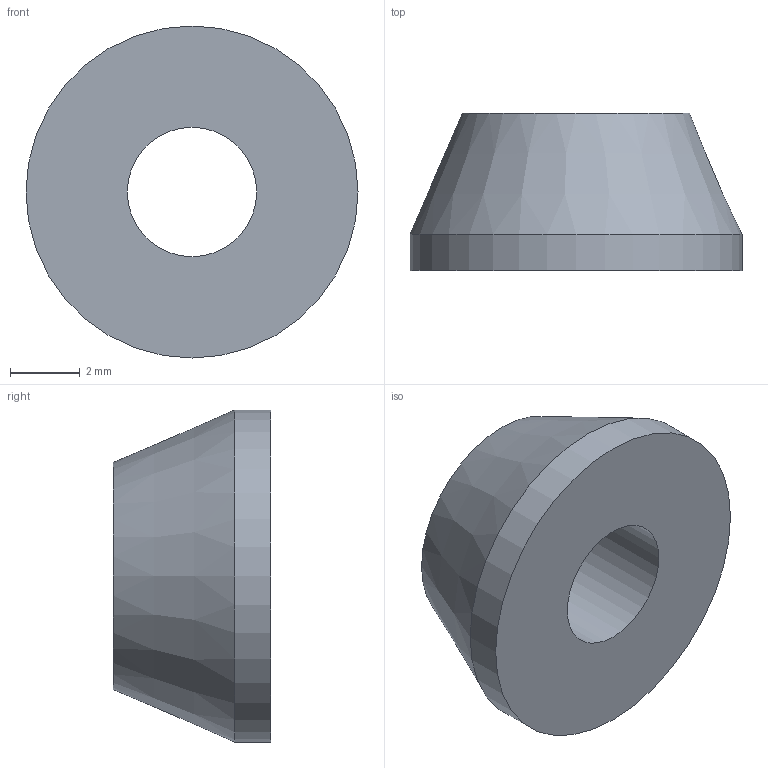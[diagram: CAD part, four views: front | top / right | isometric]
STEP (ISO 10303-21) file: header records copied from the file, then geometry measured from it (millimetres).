
FILE_DESCRIPTION(/* description */ (''),/* implementation_level */ '2;1');
FILE_NAME(/* name */ 'C:/Users/Ulises/Desktop/T1/mecanica_cad/espaciador_polea_lisa.step',/* time_stamp */ '2020-10-16T01:32:54-03:00',/* author */ (''),/* organization */ (''),/* preprocessor_version */ 'ST-DEVELOPER v18.1',/* originating_system */ 'Autodesk Translation Framework v9.3.0.1241',/* authorisation */ '');
FILE_SCHEMA (('AUTOMOTIVE_DESIGN { 1 0 10303 214 3 1 1 }'));
Length unit declared in the file: millimetre
Products named in the file (1): espaciador polea lisa
Bounding box: 9.5 x 4.5 x 9.5 mm (x, y, z)
Volume: 201.2 mm3; surface area: 260.6 mm2
Topology: 1 solids, 1 shells, 5 faces, 8 edges, 5 vertices
Faces by surface type: cylinder 2, plane 2, cone 1
Full cylindrical faces by diameter (mm): 3.7 x1, 9.5 x1
Entity records: 163 total; most frequent: DIRECTION 25, CARTESIAN_POINT 19, ORIENTED_EDGE 16, AXIS2_PLACEMENT_3D 11, EDGE_CURVE 8, EDGE_LOOP 7, FACE_OUTER_BOUND 5, CIRCLE 5
